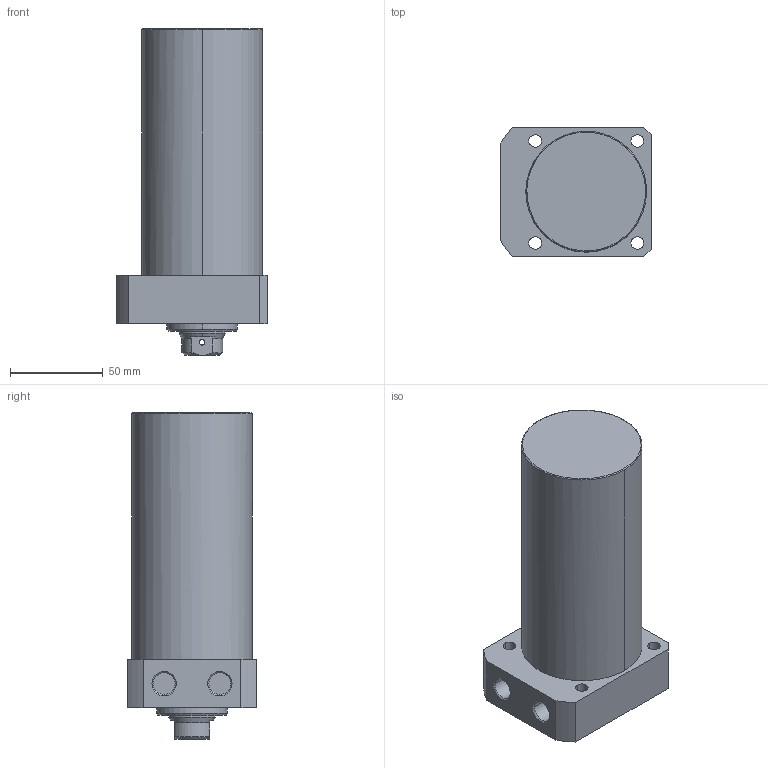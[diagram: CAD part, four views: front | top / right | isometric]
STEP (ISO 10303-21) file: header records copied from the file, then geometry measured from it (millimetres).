
FILE_DESCRIPTION((' '),'2;1');
FILE_NAME( 'TLLR-065CB-100.STEP.stp', '2025-10-24T16:34:56', (' '), ('--- Datakit www.datakit.com---'), ' Datakit CrossCadWare V2024.1 Dec 21 2023', 'Mastercam 2025', ' ');
FILE_SCHEMA(('AUTOMOTIVE_DESIGN { 1 0 10303 214 1 1 1 1 }'));
Length unit declared in the file: millimetre
Products named in the file (1): TLLR-065CB-100
Bounding box: 81 x 70 x 176 mm (x, y, z)
Volume: 585221.4 mm3; surface area: 51629.5 mm2
Topology: 1 solids, 1 shells, 67 faces, 197 edges, 136 vertices
Faces by surface type: cylinder 32, plane 19, cone 14, torus 2
Entity records: 3278 total; most frequent: CARTESIAN_POINT 1359, DIRECTION 426, ORIENTED_EDGE 390, EDGE_CURVE 195, AXIS2_PLACEMENT_3D 179, VERTEX_POINT 136, CIRCLE 111, EDGE_LOOP 85
